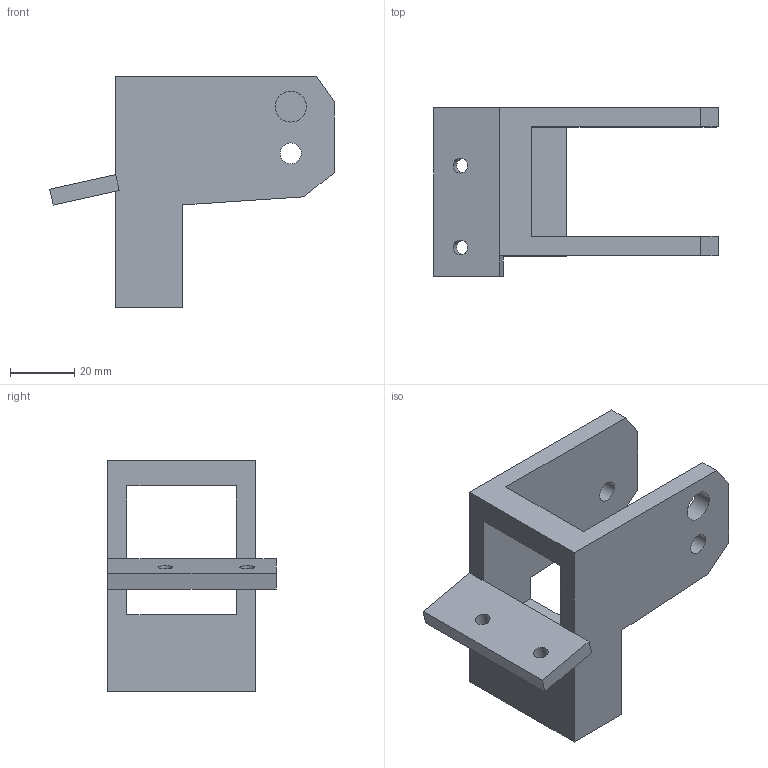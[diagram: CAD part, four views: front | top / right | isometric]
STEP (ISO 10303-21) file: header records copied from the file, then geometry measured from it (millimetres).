
FILE_DESCRIPTION(('Open CASCADE Model'),'2;1');
FILE_NAME('Open CASCADE Shape Model','2026-10-16T00:13:15',('Author'),( 'Open CASCADE'),'Open CASCADE STEP processor 7.9','Open CASCADE 7.9' ,'Unknown');
FILE_SCHEMA(('AUTOMOTIVE_DESIGN { 1 0 10303 214 1 1 1 1 }'));
Length unit declared in the file: millimetre
Products named in the file (1): Open CASCADE STEP translator 7.9 3
Bounding box: 88.36 x 52.4 x 72 mm (x, y, z)
Volume: 63482.4 mm3; surface area: 22406.9 mm2
Topology: 1 solids, 1 shells, 31 faces, 99 edges, 66 vertices
Faces by surface type: plane 26, cylinder 5
Full cylindrical faces by diameter (mm): 4.6 x2, 6.5 x2, 9.6 x1
Entity records: 2404 total; most frequent: CARTESIAN_POINT 489, DIRECTION 327, LINE 243, VECTOR 243, ORIENTED_EDGE 198, PCURVE 198, DEFINITIONAL_REPRESENTATION 198, EDGE_CURVE 99
